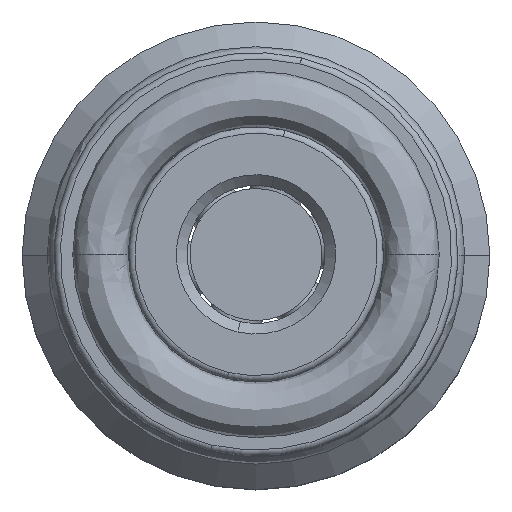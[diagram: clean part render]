
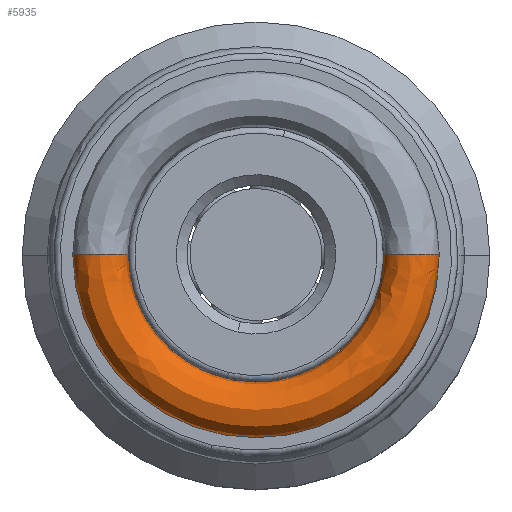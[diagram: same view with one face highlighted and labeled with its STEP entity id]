
A CAD part, top view. The second image highlights one B-rep face of the part: STEP entity #5935.
In plain terms, the highlighted free-form (B-spline) face has degree [3, 3] with [4, 4] control points.
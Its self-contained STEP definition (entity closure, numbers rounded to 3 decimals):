
#1 = CARTESIAN_POINT ( 'NONE',  ( -6., 0., -6.7 ) ) ;
#157 = ORIENTED_EDGE ( 'NONE', *, *, #4813, .F. ) ;
#1050 = CARTESIAN_POINT ( 'NONE',  ( 8.62, 0., -4.08 ) ) ;
#1100 = CARTESIAN_POINT ( 'NONE',  ( 8.62, 0., -6.7 ) ) ;
#1138 = CARTESIAN_POINT ( 'NONE',  ( 6., 0., -6.7 ) ) ;
#1181 = CARTESIAN_POINT ( 'NONE',  ( 6., 0., -4.08 ) ) ;
#1248 = ORIENTED_EDGE ( 'NONE', *, *, #2851, .T. ) ;
#1342 = CARTESIAN_POINT ( 'NONE',  ( -8.62, 0., -6.7 ) ) ;
#2851 = EDGE_CURVE ( 'NONE', #10958, #3606, #4106, .T. ) ;
#2933 = EDGE_CURVE ( 'NONE', #3721, #9736, #5431, .T. ) ;
#3101 = CARTESIAN_POINT ( 'NONE',  ( 8.62, 0., -6.7 ) ) ;
#3103 = AXIS2_PLACEMENT_3D ( 'NONE', #3450, #3434, #3415 ) ;
#3415 = DIRECTION ( 'NONE',  ( 1., 0., 0. ) ) ;
#3434 = DIRECTION ( 'NONE',  ( 0., 0., 1. ) ) ;
#3450 = CARTESIAN_POINT ( 'NONE',  ( 0., 0., -6.7 ) ) ;
#3606 = VERTEX_POINT ( 'NONE', #3101 ) ;
#3721 = VERTEX_POINT ( 'NONE', #1 ) ;
#3999 = ORIENTED_EDGE ( 'NONE', *, *, #4084, .T. ) ;
#4084 = EDGE_CURVE ( 'NONE', #3721, #10958, #12204, .T. ) ;
#4106 = CIRCLE ( 'NONE', #11073, 8.62 ) ;
#4108 = DIRECTION ( 'NONE',  ( 1., 0., 0. ) ) ;
#4152 = DIRECTION ( 'NONE',  ( 0., 0., 1. ) ) ;
#4167 = CARTESIAN_POINT ( 'NONE',  ( 0., 0., -6.7 ) ) ;
#4463 = ORIENTED_EDGE ( 'NONE', *, *, #2933, .F. ) ;
#4813 = EDGE_CURVE ( 'NONE', #9736, #3606, #10776, .T. ) ;
#5431 = CIRCLE ( 'NONE', #3103, 6. ) ;
#5935 = ADVANCED_FACE ( 'NONE', ( #7474 ), #8648, .T. ) ;
#6904 = CARTESIAN_POINT ( 'NONE',  ( -8.62, 0., -6.7 ) ) ;
#6922 = CARTESIAN_POINT ( 'NONE',  ( -8.62, 0., -4.08 ) ) ;
#6952 = CARTESIAN_POINT ( 'NONE',  ( -6., 0., -6.7 ) ) ;
#6995 = CARTESIAN_POINT ( 'NONE',  ( -6., 0., -4.08 ) ) ;
#7135 = CARTESIAN_POINT ( 'NONE',  ( -6., 0., -6.7 ) ) ;
#7474 = FACE_OUTER_BOUND ( 'NONE', #10186, .T. ) ;
#8648 =( BOUNDED_SURFACE ( )  B_SPLINE_SURFACE ( 3, 3, ( 
 ( #6952, #11770, #11740, #11718 ),
 ( #11660, #11579, #11468, #11346 ),
 ( #11299, #11280, #11239, #11171 ),
 ( #11155, #11088, #10990, #10946 ) ),
 .UNSPECIFIED., .F., .F., .F. ) 
 B_SPLINE_SURFACE_WITH_KNOTS ( ( 4, 4 ),
 ( 4, 4 ),
 ( 0., 1. ),
 ( 0., 1. ),
 .UNSPECIFIED. ) 
 GEOMETRIC_REPRESENTATION_ITEM ( )  RATIONAL_B_SPLINE_SURFACE ( (
 ( 1., 0.333, 0.333, 1.),
 ( 0.333, 0.111, 0.111, 0.333),
 ( 0.333, 0.111, 0.111, 0.333),
 ( 1., 0.333, 0.333, 1.) ) ) 
 REPRESENTATION_ITEM ( '' )  SURFACE ( )  );
#9736 = VERTEX_POINT ( 'NONE', #11184 ) ;
#10186 = EDGE_LOOP ( 'NONE', ( #4463, #3999, #1248, #157 ) ) ;
#10776 =( BOUNDED_CURVE ( )  B_SPLINE_CURVE ( 3, ( #1138, #1181, #1050, #1100 ),
 .UNSPECIFIED., .F., .T. ) 
 B_SPLINE_CURVE_WITH_KNOTS ( ( 4, 4 ),
 ( 0., 3.142 ),
 .UNSPECIFIED. ) 
 CURVE ( )  GEOMETRIC_REPRESENTATION_ITEM ( )  RATIONAL_B_SPLINE_CURVE ( ( 1., 0.333, 0.333, 1. ) ) 
 REPRESENTATION_ITEM ( '' )  );
#10946 = CARTESIAN_POINT ( 'NONE',  ( 8.62, 0., -6.7 ) ) ;
#10958 = VERTEX_POINT ( 'NONE', #1342 ) ;
#10990 = CARTESIAN_POINT ( 'NONE',  ( 8.62, -17.24, -6.7 ) ) ;
#11073 = AXIS2_PLACEMENT_3D ( 'NONE', #4167, #4152, #4108 ) ;
#11088 = CARTESIAN_POINT ( 'NONE',  ( -8.62, -17.24, -6.7 ) ) ;
#11155 = CARTESIAN_POINT ( 'NONE',  ( -8.62, 0., -6.7 ) ) ;
#11171 = CARTESIAN_POINT ( 'NONE',  ( 8.62, 0., -4.08 ) ) ;
#11184 = CARTESIAN_POINT ( 'NONE',  ( 6., 0., -6.7 ) ) ;
#11239 = CARTESIAN_POINT ( 'NONE',  ( 8.62, -17.24, -4.08 ) ) ;
#11280 = CARTESIAN_POINT ( 'NONE',  ( -8.62, -17.24, -4.08 ) ) ;
#11299 = CARTESIAN_POINT ( 'NONE',  ( -8.62, 0., -4.08 ) ) ;
#11346 = CARTESIAN_POINT ( 'NONE',  ( 6., 0., -4.08 ) ) ;
#11468 = CARTESIAN_POINT ( 'NONE',  ( 6., -12., -4.08 ) ) ;
#11579 = CARTESIAN_POINT ( 'NONE',  ( -6., -12., -4.08 ) ) ;
#11660 = CARTESIAN_POINT ( 'NONE',  ( -6., 0., -4.08 ) ) ;
#11718 = CARTESIAN_POINT ( 'NONE',  ( 6., 0., -6.7 ) ) ;
#11740 = CARTESIAN_POINT ( 'NONE',  ( 6., -12., -6.7 ) ) ;
#11770 = CARTESIAN_POINT ( 'NONE',  ( -6., -12., -6.7 ) ) ;
#12204 =( BOUNDED_CURVE ( )  B_SPLINE_CURVE ( 3, ( #7135, #6995, #6922, #6904 ),
 .UNSPECIFIED., .F., .F. ) 
 B_SPLINE_CURVE_WITH_KNOTS ( ( 4, 4 ),
 ( 0., 3.142 ),
 .UNSPECIFIED. ) 
 CURVE ( )  GEOMETRIC_REPRESENTATION_ITEM ( )  RATIONAL_B_SPLINE_CURVE ( ( 1., 0.333, 0.333, 1. ) ) 
 REPRESENTATION_ITEM ( '' )  );
